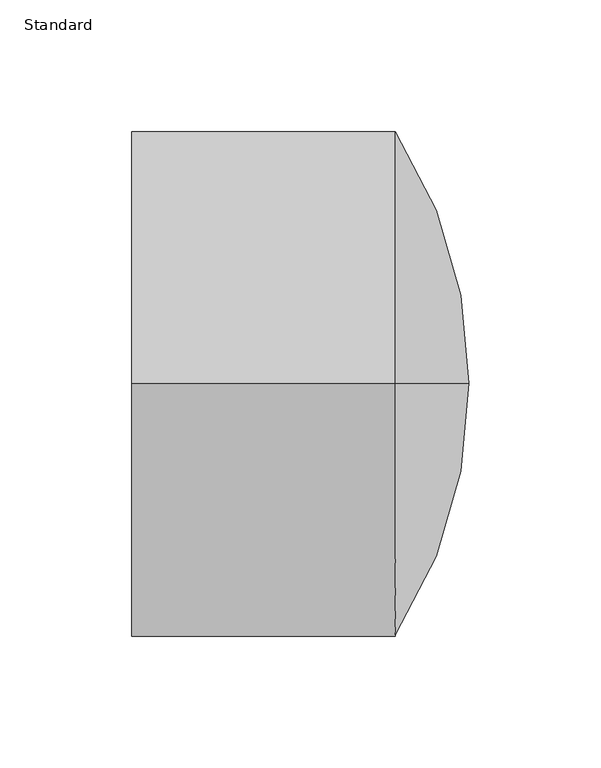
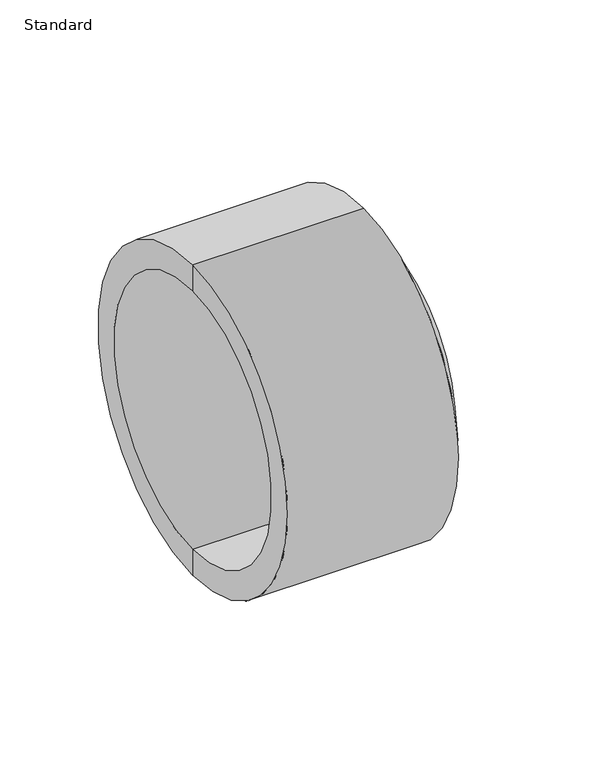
"""IFC4 building model written with IfcOpenShell, lengths in millimetres: pipe fitting geometry, Durapipe_PipeFitting_PVC_Cap : Standard."""

from ifc_helpers import new_model, si_unit, point, frame, origin, place, context, project, spatial, polyline, circle_curve, ellipse_curve, trimmed, source, transform, mapped, element, save
from ifc_brep_helpers import plane_surface, cylinder_surface, revolved_surface, advanced_brep


def standard_20fe93ad(model_context):
    return source(origin(), model_context, "Body", "AdvancedBrep", [
        advanced_brep(
        [(0.0, 0.0, 0.0), (0.0, 0.0, 80.0), (0.0, 0.0, -80.0), (14.0, 0.0, -96.0), (14.0, 0.0, 96.0), (42.0, 0.0, 0.0), (-86.0, 0.0, -96.0), (-86.0, 0.0, 96.0), (-86.0, 0.0, -80.0), (-86.0, 0.0, 80.0)],
        [
            (0, 1),
            (1, 2, circle_curve(frame((0.0, 0.0, 0.0), z_axis=(-1.0, 0.0, 0.0), x_axis=(0.0, 0.0, 1.0)), 80.0)),
            (2, 0),
            (2, 1, circle_curve(frame((0.0, 0.0, 0.0), z_axis=(-1.0, 0.0, 0.0), x_axis=(0.0, 0.0, 1.0)), 80.0)),
            (3, 4, circle_curve(frame((14.0, 0.0, 0.0), z_axis=(1.0, 0.0, 0.0), x_axis=(0.0, 0.0, 1.0)), 96.0)),
            (4, 5, circle_curve(frame((-132.7162508, 0.0, 1.1244268), z_axis=(0.0, 1.0, 0.0), x_axis=(1.0, 0.0, 0.0)), 174.719869)),
            (5, 3, circle_curve(frame((-132.7162508, 0.0, -1.1244268), z_axis=(0.0, 1.0, 0.0), x_axis=(1.0, 0.0, 0.0)), 174.719869)),
            (4, 3, circle_curve(frame((14.0, 0.0, 0.0), z_axis=(1.0, 0.0, 0.0), x_axis=(0.0, 0.0, 1.0)), 96.0)),
            (6, 7, circle_curve(frame((-86.0, 0.0, 0.0), z_axis=(1.0, 0.0, 0.0), x_axis=(0.0, 0.0, 1.0)), 96.0)),
            (7, 4),
            (3, 6),
            (7, 6, circle_curve(frame((-86.0, 0.0, 0.0), z_axis=(1.0, 0.0, 0.0), x_axis=(0.0, 0.0, 1.0)), 96.0)),
            (8, 9, circle_curve(frame((-86.0, 0.0, 0.0), z_axis=(1.0, 0.0, 0.0), x_axis=(0.0, 0.0, 1.0)), 80.0)),
            (9, 7),
            (6, 8),
            (9, 8, circle_curve(frame((-86.0, 0.0, 0.0), z_axis=(1.0, 0.0, 0.0), x_axis=(0.0, 0.0, 1.0)), 80.0)),
            (1, 9),
            (8, 2),
        ],
        [
            plane_surface(frame((0.0, 0.0, 0.0), z_axis=(-1.0, 0.0, 0.0), x_axis=(0.0, 0.0, 1.0))),
            revolved_surface(trimmed(ellipse_curve(frame((-132.7162508, 0.0, 1.1244268), z_axis=(0.0, -1.0, 0.0), x_axis=(1.0, 0.0, 0.0)), 174.719869, 174.719869), [point((42.0, 0.0, 0.0))], [point((14.0, 0.0, 96.0))], True, "CARTESIAN"), (-1585.1299635, 0.0, 0.0), (-1.0, 0.0, 0.0)),
            cylinder_surface(frame((-1585.1299635, 0.0, 0.0), z_axis=(-1.0, 0.0, 0.0), x_axis=(0.0, 0.0, 1.0)), 96.0),
            plane_surface(frame((-86.0, 0.0, 0.0), z_axis=(-1.0, 0.0, 0.0), x_axis=(0.0, 0.0, 1.0))),
            revolved_surface(polyline([(-86.0, 0.0, 80.0), (0.0, 0.0, 80.0)]), (-1585.1299635, 0.0, 0.0), (-1.0, 0.0, 0.0)),
        ],
        [
            (0, [[1, 2, 3]]),
            (0, [[-3, 4, -1]]),
            (1, [[5, 6, 7]]),
            (1, [[8, -7, -6]]),
            (2, [[9, 10, -5, 11]]),
            (2, [[12, -11, -8, -10]]),
            (3, [[13, 14, -9, 15]]),
            (3, [[16, -15, -12, -14]]),
            (4, [[-2, 17, -13, 18]]),
            (4, [[-4, -18, -16, -17]]),
        ],
    ),
    ])


if __name__ == "__main__":
    model = new_model("IFC4")
    model_context = context("Model", 3, world=origin())
    ifc_project = project(units=[si_unit("LENGTHUNIT", "METRE", prefix="MILLI")], contexts=[model_context])
    site = spatial("IfcSite", under=ifc_project)
    building = spatial("IfcBuilding", under=site)
    placement = place(None, origin())
    standard_shape = standard_20fe93ad(model_context)
    element("IfcPipeFitting", 1, ObjectType="Durapipe_PipeFitting_PVC_Cap : Standard", at=placement, inside=building, context=model_context, shape_type="MappedRepresentation", body=[
        mapped(standard_shape, transform((0.0, 0.0, 0.0), x_axis=(1.0, 0.0, 0.0), y_axis=(0.0, 1.0, 0.0), z_axis=(0.0, 0.0, 1.0))),
    ])
    save(model, "model.ifc")
